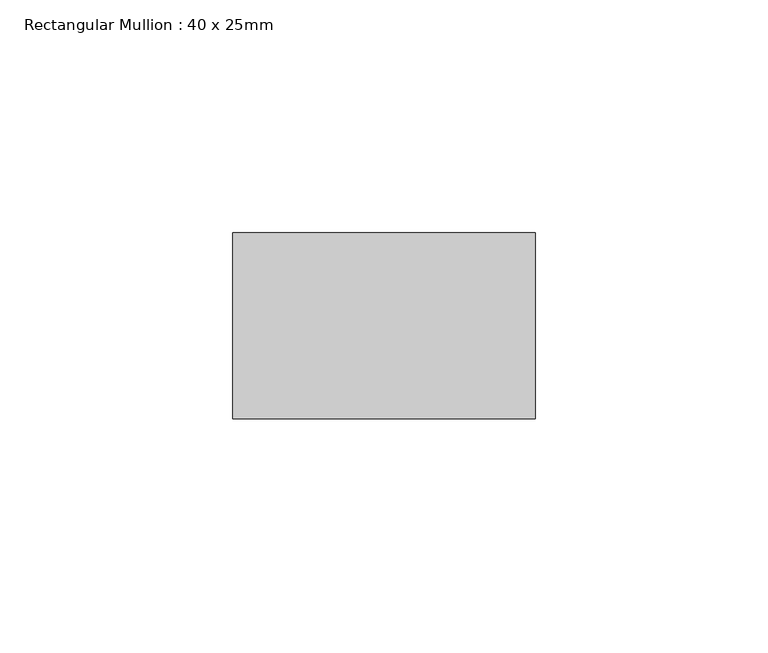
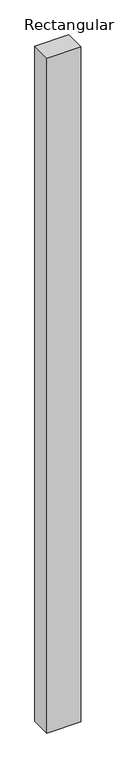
"""IFC4 building model written with IfcOpenShell, lengths in millimetres: member geometry, Rectangular Mullion : 40 x 25mm."""

from ifc_helpers import new_model, si_unit, frame, origin, place, context, project, spatial, polyline, outline, extrude, source, transform, mapped, element, save


def rectangular_mullion_40_x_25mm_2d7b84c5(model_context):
    return source(origin(), model_context, "Body", "SweptSolid", [
        extrude(outline(polyline([(0.0, -20.0), (0.0, -60.0), (-65.0, -60.0), (-65.0, -20.0), (0.0, -20.0)])), frame((0.0, 0.0, -1371.2822626), z_axis=(0.0, 0.0, 1.0), x_axis=(1.0, 0.0, 0.0)), (0.0, 0.0, 1.0), 1371.2822626),
    ])


if __name__ == "__main__":
    model = new_model("IFC4")
    model_context = context("Model", 3, world=origin())
    ifc_project = project(units=[si_unit("LENGTHUNIT", "METRE", prefix="MILLI")], contexts=[model_context])
    site = spatial("IfcSite", under=ifc_project)
    building = spatial("IfcBuilding", under=site)
    placement = place(None, origin())
    rectangular_mullion_40_x_25mm_shape = rectangular_mullion_40_x_25mm_2d7b84c5(model_context)
    element("IfcMember", 1, ObjectType="Rectangular Mullion : 40 x 25mm", at=placement, inside=building, context=model_context, shape_type="MappedRepresentation", body=[
        mapped(rectangular_mullion_40_x_25mm_shape, transform((0.0, 0.0, 0.0), x_axis=(1.0, 0.0, 0.0), y_axis=(0.0, 1.0, 0.0), z_axis=(0.0, 0.0, 1.0))),
    ])
    save(model, "model.ifc")
